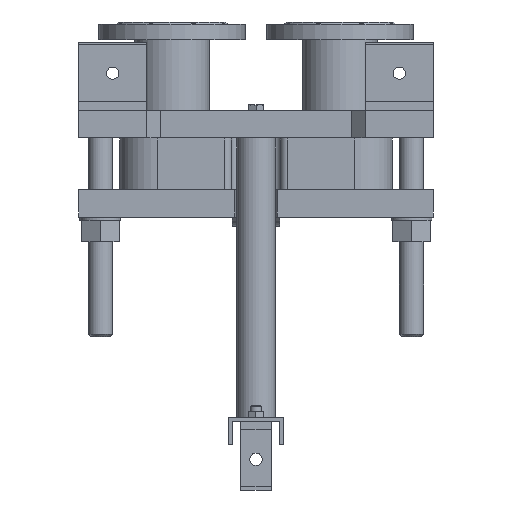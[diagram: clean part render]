
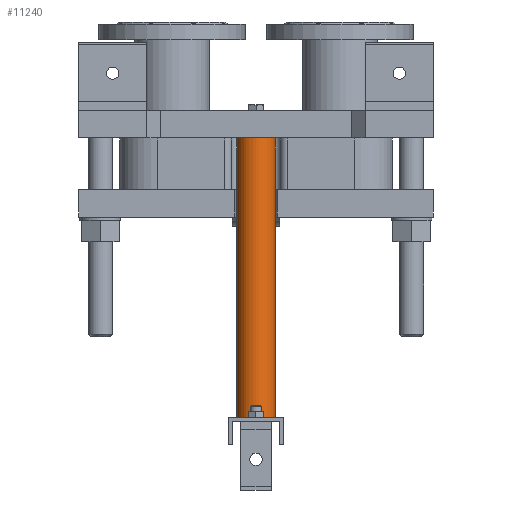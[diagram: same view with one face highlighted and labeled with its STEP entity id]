
A CAD part, front view. The second image highlights one B-rep face of the part: STEP entity #11240.
In plain terms, the highlighted cylindrical face has radius 28.5 mm (diameter 57 mm), a full revolution.
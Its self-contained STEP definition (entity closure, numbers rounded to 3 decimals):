
#781=LINE('',#22043,#1754);
#1754=VECTOR('',#14569,28.5);
#2333=CYLINDRICAL_SURFACE('',#12263,28.5);
#2995=FACE_OUTER_BOUND('',#3777,.T.);
#3777=EDGE_LOOP('',(#9013,#9014,#9015,#9016));
#4462=CIRCLE('',#12264,28.5);
#4463=CIRCLE('',#12265,28.5);
#5286=VERTEX_POINT('',#22040);
#5287=VERTEX_POINT('',#22042);
#6596=EDGE_CURVE('',#5286,#5286,#4462,.T.);
#6597=EDGE_CURVE('',#5286,#5287,#781,.T.);
#6598=EDGE_CURVE('',#5287,#5287,#4463,.T.);
#9013=ORIENTED_EDGE('',*,*,#6596,.F.);
#9014=ORIENTED_EDGE('',*,*,#6597,.T.);
#9015=ORIENTED_EDGE('',*,*,#6598,.T.);
#9016=ORIENTED_EDGE('',*,*,#6597,.F.);
#11240=ADVANCED_FACE('',(#2995),#2333,.T.);
#12263=AXIS2_PLACEMENT_3D('',#22039,#14565,#14566);
#12264=AXIS2_PLACEMENT_3D('',#22041,#14567,#14568);
#12265=AXIS2_PLACEMENT_3D('',#22044,#14570,#14571);
#14565=DIRECTION('center_axis',(0.,0.,
-1.));
#14566=DIRECTION('ref_axis',(-1.,0.,0.));
#14567=DIRECTION('center_axis',(0.,0.,
-1.));
#14568=DIRECTION('ref_axis',(-1.,0.,0.));
#14569=DIRECTION('',(0.,0.,1.));
#14570=DIRECTION('center_axis',(0.,0.,
-1.));
#14571=DIRECTION('ref_axis',(-1.,0.,0.));
#22039=CARTESIAN_POINT('Origin',(0.,215.,0.));
#22040=CARTESIAN_POINT('',(28.5,215.,-410.));
#22041=CARTESIAN_POINT('Origin',(0.,215.,-410.));
#22042=CARTESIAN_POINT('',(28.5,215.,0.));
#22043=CARTESIAN_POINT('',(28.5,215.,0.));
#22044=CARTESIAN_POINT('Origin',(0.,215.,0.));
